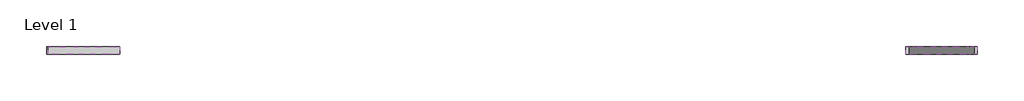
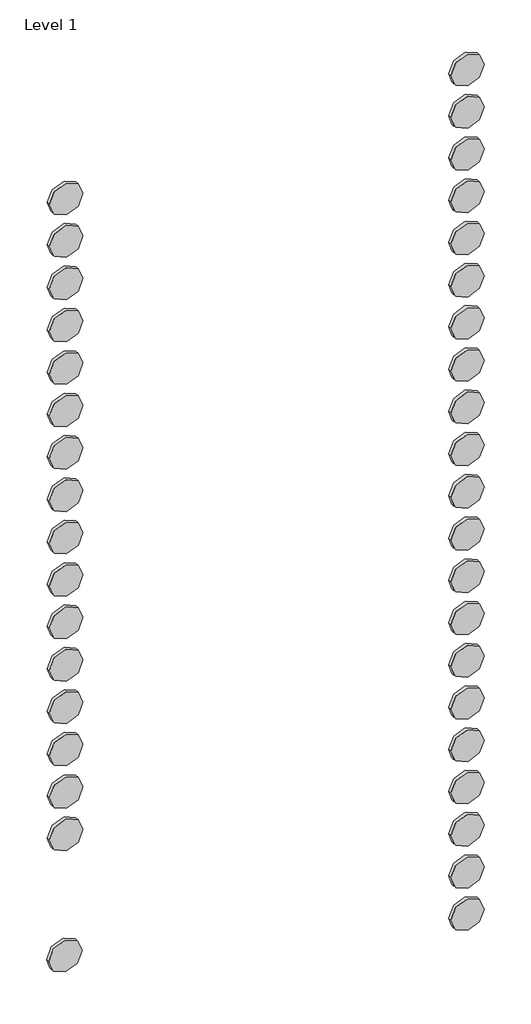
# One storey, incomplete: 38 proxies.
"""IFC4 building model written with IfcOpenShell, lengths in millimetres."""

from ifc_helpers import new_model, si_unit, origin, place, context, project, spatial, transform, mapped, element, save
from components import materialmodel_materialmodel_7ac49ee1

model = new_model("IFC4")

# Units and contexts
model_context = context("Model", 3, world=origin())
ifc_project = project(units=[si_unit("LENGTHUNIT", "METRE", prefix="MILLI")], contexts=[model_context])

# Site, building, storey
site = spatial("IfcSite", under=ifc_project)
building = spatial("IfcBuilding", under=site)
storey = spatial("IfcBuildingStorey", under=building, Name="Level 1", Elevation=0.0)

# Proxies
placement = place(None, origin())
materialmodel_materialmodel_shape = materialmodel_materialmodel_7ac49ee1(model_context)
element("IfcBuildingElementProxy", 1, Name="MaterialModel : MaterialModel", ObjectType="MaterialModel : MaterialModel", at=placement, inside=storey, context=model_context, shape_type="MappedRepresentation", body=[
    mapped(materialmodel_materialmodel_shape, transform((-14563.2398028, 705.5961609, 2194.7148789), x_axis=(1.0, 0.0, 0.0), y_axis=(0.0, 1.0, 0.0), z_axis=(0.0, 0.0, 1.0))),
])
element("IfcBuildingElementProxy", 2, Name="MaterialModel : MaterialModel", ObjectType="MaterialModel : MaterialModel", at=placement, inside=storey, context=model_context, shape_type="MappedRepresentation", body=[
    mapped(materialmodel_materialmodel_shape, transform((-14563.2398028, 705.5961609, 1994.3990228), x_axis=(1.0, 0.0, 0.0), y_axis=(0.0, 1.0, 0.0), z_axis=(0.0, 0.0, 1.0))),
])
element("IfcBuildingElementProxy", 3, Name="MaterialModel : MaterialModel", ObjectType="MaterialModel : MaterialModel", at=placement, inside=storey, context=model_context, shape_type="MappedRepresentation", body=[
    mapped(materialmodel_materialmodel_shape, transform((-14563.2398028, 705.5961609, 1794.0831667), x_axis=(1.0, 0.0, 0.0), y_axis=(0.0, 1.0, 0.0), z_axis=(0.0, 0.0, 1.0))),
])
element("IfcBuildingElementProxy", 4, Name="MaterialModel : MaterialModel", ObjectType="MaterialModel : MaterialModel", at=placement, inside=storey, context=model_context, shape_type="MappedRepresentation", body=[
    mapped(materialmodel_materialmodel_shape, transform((-12769.1644389, 705.5961609, 2176.01732), x_axis=(1.0, 0.0, 0.0), y_axis=(0.0, 1.0, 0.0), z_axis=(0.0, 0.0, 1.0))),
])
element("IfcBuildingElementProxy", 5, Name="MaterialModel : MaterialModel", ObjectType="MaterialModel : MaterialModel", at=placement, inside=storey, context=model_context, shape_type="MappedRepresentation", body=[
    mapped(materialmodel_materialmodel_shape, transform((-12769.1644389, 705.5961609, 1976.4514639), x_axis=(1.0, 0.0, 0.0), y_axis=(0.0, 1.0, 0.0), z_axis=(0.0, 0.0, 1.0))),
])
element("IfcBuildingElementProxy", 6, Name="MaterialModel : MaterialModel", ObjectType="MaterialModel : MaterialModel", at=placement, inside=storey, context=model_context, shape_type="MappedRepresentation", body=[
    mapped(materialmodel_materialmodel_shape, transform((-12769.1644389, 705.5961609, 1776.8856078), x_axis=(1.0, 0.0, 0.0), y_axis=(0.0, 1.0, 0.0), z_axis=(0.0, 0.0, 1.0))),
])
element("IfcBuildingElementProxy", 7, Name="MaterialModel : MaterialModel", ObjectType="MaterialModel : MaterialModel", at=placement, inside=storey, context=model_context, shape_type="MappedRepresentation", body=[
    mapped(materialmodel_materialmodel_shape, transform((-12769.1644389, 705.5961609, 1577.3197517), x_axis=(1.0, 0.0, 0.0), y_axis=(0.0, 1.0, 0.0), z_axis=(0.0, 0.0, 1.0))),
])
element("IfcBuildingElementProxy", 8, Name="MaterialModel : MaterialModel", ObjectType="MaterialModel : MaterialModel", at=placement, inside=storey, context=model_context, shape_type="MappedRepresentation", body=[
    mapped(materialmodel_materialmodel_shape, transform((-12769.1644389, 705.5961609, 1377.7538956), x_axis=(1.0, 0.0, 0.0), y_axis=(0.0, 1.0, 0.0), z_axis=(0.0, 0.0, 1.0))),
])
element("IfcBuildingElementProxy", 9, Name="MaterialModel : MaterialModel", ObjectType="MaterialModel : MaterialModel", at=placement, inside=storey, context=model_context, shape_type="MappedRepresentation", body=[
    mapped(materialmodel_materialmodel_shape, transform((-12769.1644389, 705.5961609, 1178.1880395), x_axis=(1.0, 0.0, 0.0), y_axis=(0.0, 1.0, 0.0), z_axis=(0.0, 0.0, 1.0))),
])
element("IfcBuildingElementProxy", 10, Name="MaterialModel : MaterialModel", ObjectType="MaterialModel : MaterialModel", at=placement, inside=storey, context=model_context, shape_type="MappedRepresentation", body=[
    mapped(materialmodel_materialmodel_shape, transform((-12769.1644389, 705.5961609, 978.6221834), x_axis=(1.0, 0.0, 0.0), y_axis=(0.0, 1.0, 0.0), z_axis=(0.0, 0.0, 1.0))),
])
element("IfcBuildingElementProxy", 11, Name="MaterialModel : MaterialModel", ObjectType="MaterialModel : MaterialModel", at=placement, inside=storey, context=model_context, shape_type="MappedRepresentation", body=[
    mapped(materialmodel_materialmodel_shape, transform((-12769.1644389, 705.5961609, 779.0563273), x_axis=(1.0, 0.0, 0.0), y_axis=(0.0, 1.0, 0.0), z_axis=(0.0, 0.0, 1.0))),
])
element("IfcBuildingElementProxy", 12, Name="MaterialModel : MaterialModel", ObjectType="MaterialModel : MaterialModel", at=placement, inside=storey, context=model_context, shape_type="MappedRepresentation", body=[
    mapped(materialmodel_materialmodel_shape, transform((-12769.1644389, 705.5961609, 579.4904712), x_axis=(1.0, 0.0, 0.0), y_axis=(0.0, 1.0, 0.0), z_axis=(0.0, 0.0, 1.0))),
])
element("IfcBuildingElementProxy", 13, Name="MaterialModel : MaterialModel", ObjectType="MaterialModel : MaterialModel", at=placement, inside=storey, context=model_context, shape_type="MappedRepresentation", body=[
    mapped(materialmodel_materialmodel_shape, transform((-12769.1644389, 705.5961609, 379.9246151), x_axis=(1.0, 0.0, 0.0), y_axis=(0.0, 1.0, 0.0), z_axis=(0.0, 0.0, 1.0))),
])
element("IfcBuildingElementProxy", 14, Name="MaterialModel : MaterialModel", ObjectType="MaterialModel : MaterialModel", at=placement, inside=storey, context=model_context, shape_type="MappedRepresentation", body=[
    mapped(materialmodel_materialmodel_shape, transform((-12769.1644389, 705.5961609, 180.358759), x_axis=(1.0, 0.0, 0.0), y_axis=(0.0, 1.0, 0.0), z_axis=(0.0, 0.0, 1.0))),
])
element("IfcBuildingElementProxy", 15, Name="MaterialModel : MaterialModel", ObjectType="MaterialModel : MaterialModel", at=placement, inside=storey, context=model_context, shape_type="MappedRepresentation", body=[
    mapped(materialmodel_materialmodel_shape, transform((-12769.1644389, 705.5961609, -19.2070971), x_axis=(1.0, 0.0, 0.0), y_axis=(0.0, 1.0, 0.0), z_axis=(0.0, 0.0, 1.0))),
])
element("IfcBuildingElementProxy", 16, Name="MaterialModel : MaterialModel", ObjectType="MaterialModel : MaterialModel", at=placement, inside=storey, context=model_context, shape_type="MappedRepresentation", body=[
    mapped(materialmodel_materialmodel_shape, transform((-12769.1644389, 705.5961609, -218.7729532), x_axis=(1.0, 0.0, 0.0), y_axis=(0.0, 1.0, 0.0), z_axis=(0.0, 0.0, 1.0))),
])
element("IfcBuildingElementProxy", 17, Name="MaterialModel : MaterialModel", ObjectType="MaterialModel : MaterialModel", at=placement, inside=storey, context=model_context, shape_type="MappedRepresentation", body=[
    mapped(materialmodel_materialmodel_shape, transform((-12769.1644389, 705.5961609, -418.3388093), x_axis=(1.0, 0.0, 0.0), y_axis=(0.0, 1.0, 0.0), z_axis=(0.0, 0.0, 1.0))),
])
element("IfcBuildingElementProxy", 18, Name="MaterialModel : MaterialModel", ObjectType="MaterialModel : MaterialModel", at=placement, inside=storey, context=model_context, shape_type="MappedRepresentation", body=[
    mapped(materialmodel_materialmodel_shape, transform((-12769.1644389, 705.5961609, -617.9046654), x_axis=(1.0, 0.0, 0.0), y_axis=(0.0, 1.0, 0.0), z_axis=(0.0, 0.0, 1.0))),
])
element("IfcBuildingElementProxy", 19, Name="MaterialModel : MaterialModel", ObjectType="MaterialModel : MaterialModel", at=placement, inside=storey, context=model_context, shape_type="MappedRepresentation", body=[
    mapped(materialmodel_materialmodel_shape, transform((-12769.1644389, 705.5961609, -817.4705215), x_axis=(1.0, 0.0, 0.0), y_axis=(0.0, 1.0, 0.0), z_axis=(0.0, 0.0, 1.0))),
])
element("IfcBuildingElementProxy", 20, Name="MaterialModel : MaterialModel", ObjectType="MaterialModel : MaterialModel", at=placement, inside=storey, context=model_context, shape_type="MappedRepresentation", body=[
    mapped(materialmodel_materialmodel_shape, transform((-12769.1644389, 705.5961609, -1017.0363776), x_axis=(1.0, 0.0, 0.0), y_axis=(0.0, 1.0, 0.0), z_axis=(0.0, 0.0, 1.0))),
])
element("IfcBuildingElementProxy", 21, Name="MaterialModel : MaterialModel", ObjectType="MaterialModel : MaterialModel", at=placement, inside=storey, context=model_context, shape_type="MappedRepresentation", body=[
    mapped(materialmodel_materialmodel_shape, transform((-12769.1644389, 705.5961609, -1216.6022337), x_axis=(1.0, 0.0, 0.0), y_axis=(0.0, 1.0, 0.0), z_axis=(0.0, 0.0, 1.0))),
])
element("IfcBuildingElementProxy", 22, Name="MaterialModel : MaterialModel", ObjectType="MaterialModel : MaterialModel", at=placement, inside=storey, context=model_context, shape_type="MappedRepresentation", body=[
    mapped(materialmodel_materialmodel_shape, transform((-12769.1644389, 705.5961609, -1416.1680898), x_axis=(1.0, 0.0, 0.0), y_axis=(0.0, 1.0, 0.0), z_axis=(0.0, 0.0, 1.0))),
])
element("IfcBuildingElementProxy", 23, Name="MaterialModel : MaterialModel", ObjectType="MaterialModel : MaterialModel", at=placement, inside=storey, context=model_context, shape_type="MappedRepresentation", body=[
    mapped(materialmodel_materialmodel_shape, transform((-12769.1644389, 705.5961609, -1615.7339459), x_axis=(1.0, 0.0, 0.0), y_axis=(0.0, 1.0, 0.0), z_axis=(0.0, 0.0, 1.0))),
])
element("IfcBuildingElementProxy", 24, Name="MaterialModel : MaterialModel", ObjectType="MaterialModel : MaterialModel", at=placement, inside=storey, context=model_context, shape_type="MappedRepresentation", body=[
    mapped(materialmodel_materialmodel_shape, transform((-12769.1644389, 705.5961609, -1815.299802), x_axis=(1.0, 0.0, 0.0), y_axis=(0.0, 1.0, 0.0), z_axis=(0.0, 0.0, 1.0))),
])
element("IfcBuildingElementProxy", 25, Name="MaterialModel : MaterialModel", ObjectType="MaterialModel : MaterialModel", at=placement, inside=storey, context=model_context, shape_type="MappedRepresentation", body=[
    mapped(materialmodel_materialmodel_shape, transform((-14563.2398028, 705.5961609, 1593.7673106), x_axis=(1.0, 0.0, 0.0), y_axis=(0.0, 1.0, 0.0), z_axis=(0.0, 0.0, 1.0))),
])
element("IfcBuildingElementProxy", 26, Name="MaterialModel : MaterialModel", ObjectType="MaterialModel : MaterialModel", at=placement, inside=storey, context=model_context, shape_type="MappedRepresentation", body=[
    mapped(materialmodel_materialmodel_shape, transform((-14563.2398028, 705.5961609, 1393.4514546), x_axis=(1.0, 0.0, 0.0), y_axis=(0.0, 1.0, 0.0), z_axis=(0.0, 0.0, 1.0))),
])
element("IfcBuildingElementProxy", 27, Name="MaterialModel : MaterialModel", ObjectType="MaterialModel : MaterialModel", at=placement, inside=storey, context=model_context, shape_type="MappedRepresentation", body=[
    mapped(materialmodel_materialmodel_shape, transform((-14563.2398028, 705.5961609, 1193.1355985), x_axis=(1.0, 0.0, 0.0), y_axis=(0.0, 1.0, 0.0), z_axis=(0.0, 0.0, 1.0))),
])
element("IfcBuildingElementProxy", 28, Name="MaterialModel : MaterialModel", ObjectType="MaterialModel : MaterialModel", at=placement, inside=storey, context=model_context, shape_type="MappedRepresentation", body=[
    mapped(materialmodel_materialmodel_shape, transform((-14563.2398028, 705.5961609, 992.8197424), x_axis=(1.0, 0.0, 0.0), y_axis=(0.0, 1.0, 0.0), z_axis=(0.0, 0.0, 1.0))),
])
element("IfcBuildingElementProxy", 29, Name="MaterialModel : MaterialModel", ObjectType="MaterialModel : MaterialModel", at=placement, inside=storey, context=model_context, shape_type="MappedRepresentation", body=[
    mapped(materialmodel_materialmodel_shape, transform((-14563.2398028, 705.5961609, 792.5038863), x_axis=(1.0, 0.0, 0.0), y_axis=(0.0, 1.0, 0.0), z_axis=(0.0, 0.0, 1.0))),
])
element("IfcBuildingElementProxy", 30, Name="MaterialModel : MaterialModel", ObjectType="MaterialModel : MaterialModel", at=placement, inside=storey, context=model_context, shape_type="MappedRepresentation", body=[
    mapped(materialmodel_materialmodel_shape, transform((-14563.2398028, 705.5961609, 592.1880302), x_axis=(1.0, 0.0, 0.0), y_axis=(0.0, 1.0, 0.0), z_axis=(0.0, 0.0, 1.0))),
])
element("IfcBuildingElementProxy", 31, Name="MaterialModel : MaterialModel", ObjectType="MaterialModel : MaterialModel", at=placement, inside=storey, context=model_context, shape_type="MappedRepresentation", body=[
    mapped(materialmodel_materialmodel_shape, transform((-14563.2398028, 705.5961609, 391.8721741), x_axis=(1.0, 0.0, 0.0), y_axis=(0.0, 1.0, 0.0), z_axis=(0.0, 0.0, 1.0))),
])
element("IfcBuildingElementProxy", 32, Name="MaterialModel : MaterialModel", ObjectType="MaterialModel : MaterialModel", at=placement, inside=storey, context=model_context, shape_type="MappedRepresentation", body=[
    mapped(materialmodel_materialmodel_shape, transform((-14563.2398028, 705.5961609, 191.556318), x_axis=(1.0, 0.0, 0.0), y_axis=(0.0, 1.0, 0.0), z_axis=(0.0, 0.0, 1.0))),
])
element("IfcBuildingElementProxy", 33, Name="MaterialModel : MaterialModel", ObjectType="MaterialModel : MaterialModel", at=placement, inside=storey, context=model_context, shape_type="MappedRepresentation", body=[
    mapped(materialmodel_materialmodel_shape, transform((-14563.2398028, 705.5961609, -8.7595381), x_axis=(1.0, 0.0, 0.0), y_axis=(0.0, 1.0, 0.0), z_axis=(0.0, 0.0, 1.0))),
])
element("IfcBuildingElementProxy", 34, Name="MaterialModel : MaterialModel", ObjectType="MaterialModel : MaterialModel", at=placement, inside=storey, context=model_context, shape_type="MappedRepresentation", body=[
    mapped(materialmodel_materialmodel_shape, transform((-14563.2398028, 705.5961609, -209.0753942), x_axis=(1.0, 0.0, 0.0), y_axis=(0.0, 1.0, 0.0), z_axis=(0.0, 0.0, 1.0))),
])
element("IfcBuildingElementProxy", 35, Name="MaterialModel : MaterialModel", ObjectType="MaterialModel : MaterialModel", at=placement, inside=storey, context=model_context, shape_type="MappedRepresentation", body=[
    mapped(materialmodel_materialmodel_shape, transform((-14563.2398028, 705.5961609, -409.3912503), x_axis=(1.0, 0.0, 0.0), y_axis=(0.0, 1.0, 0.0), z_axis=(0.0, 0.0, 1.0))),
])
element("IfcBuildingElementProxy", 36, Name="MaterialModel : MaterialModel", ObjectType="MaterialModel : MaterialModel", at=placement, inside=storey, context=model_context, shape_type="MappedRepresentation", body=[
    mapped(materialmodel_materialmodel_shape, transform((-14563.2398028, 705.5961609, -609.7071064), x_axis=(1.0, 0.0, 0.0), y_axis=(0.0, 1.0, 0.0), z_axis=(0.0, 0.0, 1.0))),
])
element("IfcBuildingElementProxy", 37, Name="MaterialModel : MaterialModel", ObjectType="MaterialModel : MaterialModel", at=placement, inside=storey, context=model_context, shape_type="MappedRepresentation", body=[
    mapped(materialmodel_materialmodel_shape, transform((-14563.2398028, 705.5961609, -810.0229625), x_axis=(1.0, 0.0, 0.0), y_axis=(0.0, 1.0, 0.0), z_axis=(0.0, 0.0, 1.0))),
])
element("IfcBuildingElementProxy", 38, Name="MaterialModel : MaterialModel", ObjectType="MaterialModel : MaterialModel", at=placement, inside=storey, context=model_context, shape_type="MappedRepresentation", body=[
    mapped(materialmodel_materialmodel_shape, transform((-14566.7697973, 705.5961609, -1381.6290414), x_axis=(1.0, 0.0, 0.0), y_axis=(0.0, 1.0, 0.0), z_axis=(0.0, 0.0, 1.0))),
])

save(model, "model.ifc")
